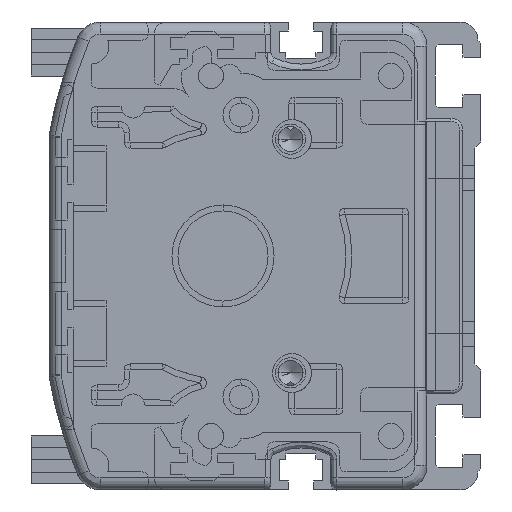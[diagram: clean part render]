
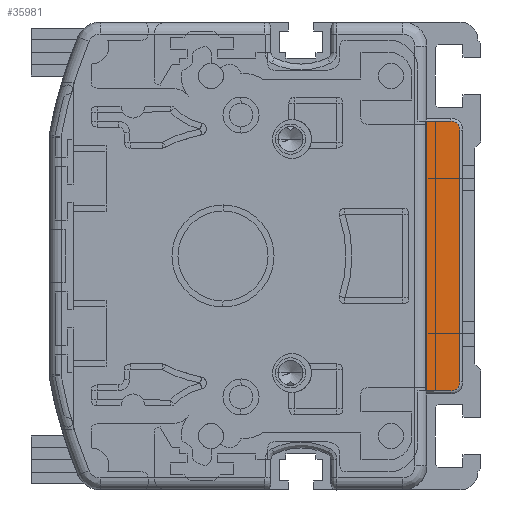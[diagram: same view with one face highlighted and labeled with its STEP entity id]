
A CAD part, left-side view. The second image highlights one B-rep face of the part: STEP entity #35981.
In plain terms, the highlighted planar face has unit normal (-1, 0, 0).
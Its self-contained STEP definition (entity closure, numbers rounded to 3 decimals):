
#30524=DIRECTION('',(0.,0.,-1.));
#30525=VECTOR('',#30524,45.);
#30526=CARTESIAN_POINT('',(-2.,10.268,22.5));
#30527=LINE('',#30526,#30525);
#30559=CARTESIAN_POINT('',(-2.,6.,21.));
#30560=DIRECTION('',(1.,0.,0.));
#30561=DIRECTION('',(0.,0.,1.));
#30562=AXIS2_PLACEMENT_3D('',#30559,#30560,#30561);
#30564=CARTESIAN_POINT('',(-2.,6.,-21.));
#30565=DIRECTION('',(1.,0.,0.));
#30566=DIRECTION('',(0.,-1.,0.));
#30567=AXIS2_PLACEMENT_3D('',#30564,#30565,#30566);
#30573=DIRECTION('',(0.,-1.,0.));
#30574=VECTOR('',#30573,4.268);
#30575=CARTESIAN_POINT('',(-2.,10.268,-22.5));
#30576=LINE('',#30575,#30574);
#31107=DIRECTION('',(0.,0.,1.));
#31108=VECTOR('',#31107,42.);
#31109=CARTESIAN_POINT('',(-2.,4.5,-21.));
#31110=LINE('',#31109,#31108);
#31130=DIRECTION('',(0.,1.,0.));
#31131=VECTOR('',#31130,4.268);
#31132=CARTESIAN_POINT('',(-2.,6.,22.5));
#31133=LINE('',#31132,#31131);
#34416=CARTESIAN_POINT('',(-2.,10.268,22.5));
#34417=CARTESIAN_POINT('',(-2.,10.268,-22.5));
#34418=VERTEX_POINT('',#34416);
#34419=VERTEX_POINT('',#34417);
#34429=CARTESIAN_POINT('',(-2.,6.,-22.5));
#34430=VERTEX_POINT('',#34429);
#34431=CARTESIAN_POINT('',(-2.,4.5,-21.));
#34432=VERTEX_POINT('',#34431);
#34433=CARTESIAN_POINT('',(-2.,4.5,21.));
#34434=VERTEX_POINT('',#34433);
#34435=CARTESIAN_POINT('',(-2.,6.,
22.5));
#34436=VERTEX_POINT('',#34435);
#35963=CARTESIAN_POINT('',(-2.,7.384,0.));
#35964=DIRECTION('',(1.,0.,0.));
#35965=DIRECTION('',(0.,0.,-1.));
#35966=AXIS2_PLACEMENT_3D('',#35963,#35964,#35965);
#35967=PLANE('',#35966);
#35969=ORIENTED_EDGE('',*,*,#35968,.F.);
#35970=ORIENTED_EDGE('',*,*,#35942,.F.);
#35972=ORIENTED_EDGE('',*,*,#35971,.F.);
#35974=ORIENTED_EDGE('',*,*,#35973,.T.);
#35976=ORIENTED_EDGE('',*,*,#35975,.F.);
#35978=ORIENTED_EDGE('',*,*,#35977,.T.);
#35979=EDGE_LOOP('',(#35969,#35970,#35972,#35974,#35976,#35978));
#35980=FACE_OUTER_BOUND('',#35979,.F.);
#35981=ADVANCED_FACE('',(#35980),#35967,.F.);
#30563=CIRCLE('',#30562,1.5);
#30568=CIRCLE('',#30567,1.5);
#35942=EDGE_CURVE('',#34418,#34419,#30527,.T.);
#35968=EDGE_CURVE('',#34419,#34430,#30576,.T.);
#35971=EDGE_CURVE('',#34436,#34418,#31133,.T.);
#35973=EDGE_CURVE('',#34436,#34434,#30563,.T.);
#35975=EDGE_CURVE('',#34432,#34434,#31110,.T.);
#35977=EDGE_CURVE('',#34432,#34430,#30568,.T.);
